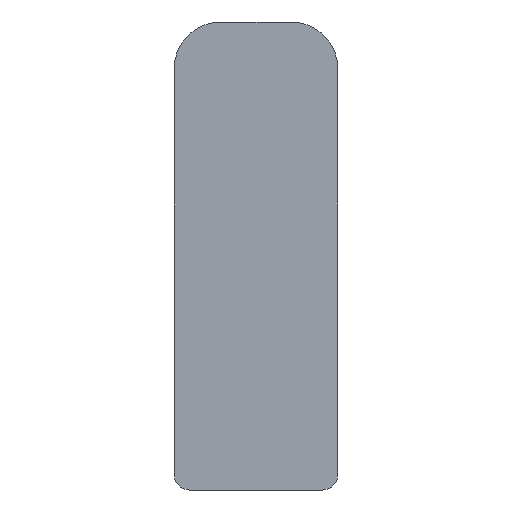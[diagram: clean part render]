
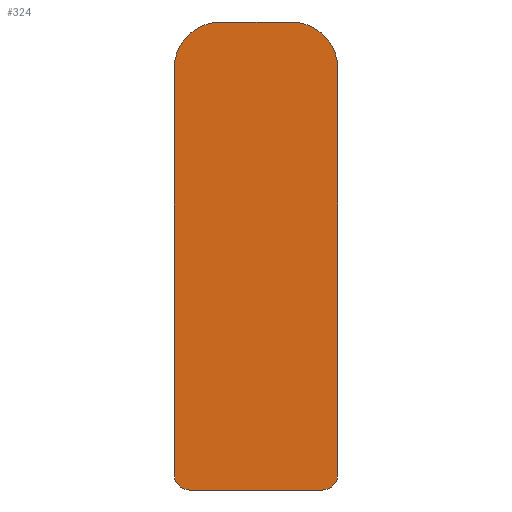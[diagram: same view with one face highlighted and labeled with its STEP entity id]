
A CAD part, left-side view. The second image highlights one B-rep face of the part: STEP entity #324.
In plain terms, the highlighted planar face has unit normal (-1, 0, 0).
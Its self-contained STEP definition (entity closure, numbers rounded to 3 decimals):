
#1 = CIRCLE ( 'NONE', #138, 1. ) ;
#5 = ORIENTED_EDGE ( 'NONE', *, *, #137, .T. ) ;
#7 = VECTOR ( 'NONE', #312, 1000. ) ;
#8 = LINE ( 'NONE', #313, #7 ) ;
#22 = CIRCLE ( 'NONE', #135, 3. ) ;
#28 = EDGE_LOOP ( 'NONE', ( #71, #72, #73, #75, #76, #74, #77, #5 ) ) ;
#36 = VECTOR ( 'NONE', #230, 1000. ) ;
#37 = LINE ( 'NONE', #231, #36 ) ;
#71 = ORIENTED_EDGE ( 'NONE', *, *, #141, .T. ) ;
#72 = ORIENTED_EDGE ( 'NONE', *, *, #145, .T. ) ;
#73 = ORIENTED_EDGE ( 'NONE', *, *, #149, .T. ) ;
#74 = ORIENTED_EDGE ( 'NONE', *, *, #157, .T. ) ;
#75 = ORIENTED_EDGE ( 'NONE', *, *, #152, .T. ) ;
#76 = ORIENTED_EDGE ( 'NONE', *, *, #148, .T. ) ;
#77 = ORIENTED_EDGE ( 'NONE', *, *, #160, .T. ) ;
#80 = VECTOR ( 'NONE', #289, 1000. ) ;
#85 = AXIS2_PLACEMENT_3D ( 'NONE', #214, #213, #212 ) ;
#92 = AXIS2_PLACEMENT_3D ( 'NONE', #271, #270, #269 ) ;
#95 = AXIS2_PLACEMENT_3D ( 'NONE', #300, #299, #298 ) ;
#113 = FACE_OUTER_BOUND ( 'NONE', #28, .T. ) ;
#127 = CIRCLE ( 'NONE', #92, 1. ) ;
#132 = VECTOR ( 'NONE', #277, 1000. ) ;
#133 = LINE ( 'NONE', #278, #132 ) ;
#135 = AXIS2_PLACEMENT_3D ( 'NONE', #205, #201, #197 ) ;
#137 = EDGE_CURVE ( 'NONE', #258, #253, #37, .T. ) ;
#138 = AXIS2_PLACEMENT_3D ( 'NONE', #303, #302, #301 ) ;
#141 = EDGE_CURVE ( 'NONE', #253, #304, #22, .T. ) ;
#145 = EDGE_CURVE ( 'NONE', #304, #243, #8, .T. ) ;
#148 = EDGE_CURVE ( 'NONE', #311, #294, #1, .T. ) ;
#149 = EDGE_CURVE ( 'NONE', #243, #237, #338, .T. ) ;
#152 = EDGE_CURVE ( 'NONE', #237, #311, #340, .T. ) ;
#157 = EDGE_CURVE ( 'NONE', #294, #317, #133, .T. ) ;
#160 = EDGE_CURVE ( 'NONE', #317, #258, #127, .T. ) ;
#197 = DIRECTION ( 'NONE',  ( 0., 0., 1. ) ) ;
#201 = DIRECTION ( 'NONE',  ( -1., 0., 0. ) ) ;
#205 = CARTESIAN_POINT ( 'NONE',  ( -431.25, -2.25, 27. ) ) ;
#212 = DIRECTION ( 'NONE',  ( 0., 0., 1. ) ) ;
#213 = DIRECTION ( 'NONE',  ( -1., 0., 0. ) ) ;
#214 = CARTESIAN_POINT ( 'NONE',  ( -431.25, -2.25, 27. ) ) ;
#215 = PLANE ( 'NONE',  #85 ) ;
#230 = DIRECTION ( 'NONE',  ( 0., 0., 1. ) ) ;
#231 = CARTESIAN_POINT ( 'NONE',  ( -431.25, -5.25, 1. ) ) ;
#237 = VERTEX_POINT ( 'NONE', #255 ) ;
#238 = CARTESIAN_POINT ( 'NONE',  ( -431.25, -4.25, 0. ) ) ;
#239 = CARTESIAN_POINT ( 'NONE',  ( -431.25, 5.25, 1. ) ) ;
#241 = CARTESIAN_POINT ( 'NONE',  ( -431.25, -2.25, 30. ) ) ;
#242 = CARTESIAN_POINT ( 'NONE',  ( -431.25, 4.25, 0. ) ) ;
#243 = VERTEX_POINT ( 'NONE', #254 ) ;
#249 = CARTESIAN_POINT ( 'NONE',  ( -431.25, -5.25, 1. ) ) ;
#251 = CARTESIAN_POINT ( 'NONE',  ( -431.25, -5.25, 27. ) ) ;
#253 = VERTEX_POINT ( 'NONE', #251 ) ;
#254 = CARTESIAN_POINT ( 'NONE',  ( -431.25, 2.25, 30. ) ) ;
#255 = CARTESIAN_POINT ( 'NONE',  ( -431.25, 5.25, 27. ) ) ;
#258 = VERTEX_POINT ( 'NONE', #249 ) ;
#269 = DIRECTION ( 'NONE',  ( 0., 0., -1. ) ) ;
#270 = DIRECTION ( 'NONE',  ( -1., 0., 0. ) ) ;
#271 = CARTESIAN_POINT ( 'NONE',  ( -431.25, -4.25, 1. ) ) ;
#277 = DIRECTION ( 'NONE',  ( 0., -1., 0. ) ) ;
#278 = CARTESIAN_POINT ( 'NONE',  ( -431.25, -4.25, 0. ) ) ;
#289 = DIRECTION ( 'NONE',  ( 0., 0., -1. ) ) ;
#290 = CARTESIAN_POINT ( 'NONE',  ( -431.25, 5.25, 1. ) ) ;
#294 = VERTEX_POINT ( 'NONE', #242 ) ;
#298 = DIRECTION ( 'NONE',  ( 0., 0., -1. ) ) ;
#299 = DIRECTION ( 'NONE',  ( -1., 0., 0. ) ) ;
#300 = CARTESIAN_POINT ( 'NONE',  ( -431.25, 2.25, 27. ) ) ;
#301 = DIRECTION ( 'NONE',  ( 0., 0., -1. ) ) ;
#302 = DIRECTION ( 'NONE',  ( -1., 0., 0. ) ) ;
#303 = CARTESIAN_POINT ( 'NONE',  ( -431.25, 4.25, 1. ) ) ;
#304 = VERTEX_POINT ( 'NONE', #241 ) ;
#311 = VERTEX_POINT ( 'NONE', #239 ) ;
#312 = DIRECTION ( 'NONE',  ( 0., 1., 0. ) ) ;
#313 = CARTESIAN_POINT ( 'NONE',  ( -431.25, -2.25, 30. ) ) ;
#317 = VERTEX_POINT ( 'NONE', #238 ) ;
#324 = ADVANCED_FACE ( 'NONE', ( #113 ), #215, .T. ) ;
#338 = CIRCLE ( 'NONE', #95, 3. ) ;
#340 = LINE ( 'NONE', #290, #80 ) ;
